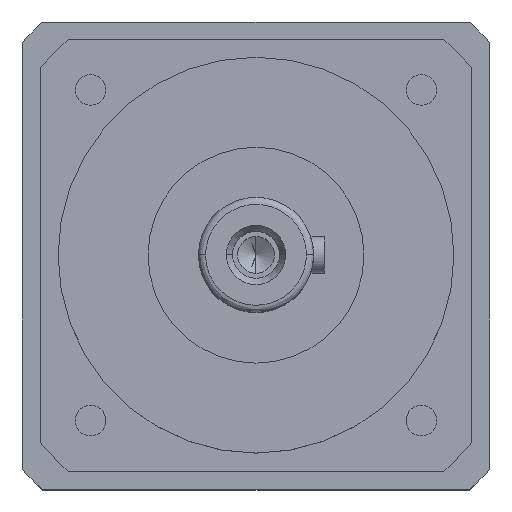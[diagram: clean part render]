
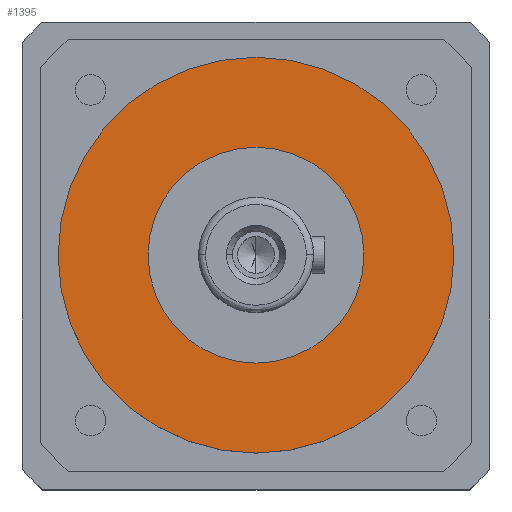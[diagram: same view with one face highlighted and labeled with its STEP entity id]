
A CAD part, top view. The second image highlights one B-rep face of the part: STEP entity #1395.
In plain terms, the highlighted planar face has unit normal (0, 0, 1).
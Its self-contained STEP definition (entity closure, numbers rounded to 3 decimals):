
#7 = VERTEX_POINT ( 'NONE', #1566 ) ;
#177 = EDGE_CURVE ( 'NONE', #7, #6332, #12423, .T. ) ;
#233 = PLANE ( 'NONE',  #4707 ) ;
#496 = ORIENTED_EDGE ( 'NONE', *, *, #20733, .F. ) ;
#1395 = ADVANCED_FACE ( 'NONE', ( #5804, #18541 ), #233, .F. ) ;
#1566 = CARTESIAN_POINT ( 'NONE',  ( 30., 0., -52. ) ) ;
#2018 = AXIS2_PLACEMENT_3D ( 'NONE', #15114, #16705, #18346 ) ;
#2231 = CARTESIAN_POINT ( 'NONE',  ( 0., 0., -52. ) ) ;
#2383 = ORIENTED_EDGE ( 'NONE', *, *, #14951, .F. ) ;
#2883 = VERTEX_POINT ( 'NONE', #6160 ) ;
#3823 = DIRECTION ( 'NONE',  ( 1., 0., 0. ) ) ;
#3943 = CARTESIAN_POINT ( 'NONE',  ( 0., 0., -52. ) ) ;
#4021 = DIRECTION ( 'NONE',  ( 0., 0., -1. ) ) ;
#4707 = AXIS2_PLACEMENT_3D ( 'NONE', #5099, #9873, #19401 ) ;
#5099 = CARTESIAN_POINT ( 'NONE',  ( 0., 30., -52. ) ) ;
#5579 = DIRECTION ( 'NONE',  ( 1., 0., 0. ) ) ;
#5804 = FACE_OUTER_BOUND ( 'NONE', #17746, .T. ) ;
#6020 = ORIENTED_EDGE ( 'NONE', *, *, #18551, .F. ) ;
#6160 = CARTESIAN_POINT ( 'NONE',  ( 55., 0., -52. ) ) ;
#6332 = VERTEX_POINT ( 'NONE', #19345 ) ;
#8108 = VERTEX_POINT ( 'NONE', #17419 ) ;
#9873 = DIRECTION ( 'NONE',  ( 0., 0., -1. ) ) ;
#10954 = CIRCLE ( 'NONE', #11568, 30. ) ;
#10994 = AXIS2_PLACEMENT_3D ( 'NONE', #3943, #15128, #5579 ) ;
#11568 = AXIS2_PLACEMENT_3D ( 'NONE', #2231, #13409, #3823 ) ;
#12423 = CIRCLE ( 'NONE', #2018, 30. ) ;
#13409 = DIRECTION ( 'NONE',  ( 0., 0., 1. ) ) ;
#13609 = CARTESIAN_POINT ( 'NONE',  ( 0., 0., -52. ) ) ;
#14505 = ORIENTED_EDGE ( 'NONE', *, *, #177, .F. ) ;
#14951 = EDGE_CURVE ( 'NONE', #2883, #8108, #18572, .T. ) ;
#15114 = CARTESIAN_POINT ( 'NONE',  ( 0., 0., -52. ) ) ;
#15128 = DIRECTION ( 'NONE',  ( 0., 0., -1. ) ) ;
#15205 = DIRECTION ( 'NONE',  ( 1., 0., 0. ) ) ;
#16705 = DIRECTION ( 'NONE',  ( 0., 0., 1. ) ) ;
#17122 = CIRCLE ( 'NONE', #18735, 55. ) ;
#17163 = EDGE_LOOP ( 'NONE', ( #14505, #6020 ) ) ;
#17419 = CARTESIAN_POINT ( 'NONE',  ( -55., 0., -52. ) ) ;
#17746 = EDGE_LOOP ( 'NONE', ( #2383, #496 ) ) ;
#18346 = DIRECTION ( 'NONE',  ( 1., 0., 0. ) ) ;
#18541 = FACE_BOUND ( 'NONE', #17163, .T. ) ;
#18551 = EDGE_CURVE ( 'NONE', #6332, #7, #10954, .T. ) ;
#18572 = CIRCLE ( 'NONE', #10994, 55. ) ;
#18735 = AXIS2_PLACEMENT_3D ( 'NONE', #13609, #4021, #15205 ) ;
#19345 = CARTESIAN_POINT ( 'NONE',  ( -30., 0., -52. ) ) ;
#19401 = DIRECTION ( 'NONE',  ( -1., 0., 0. ) ) ;
#20733 = EDGE_CURVE ( 'NONE', #8108, #2883, #17122, .T. ) ;
